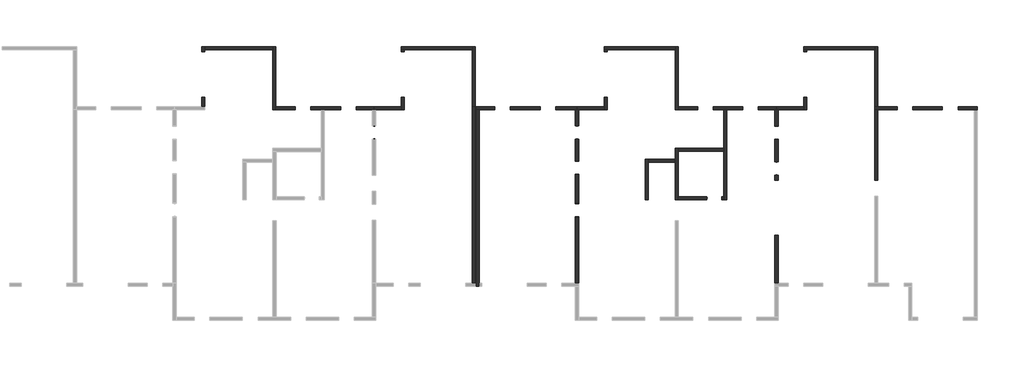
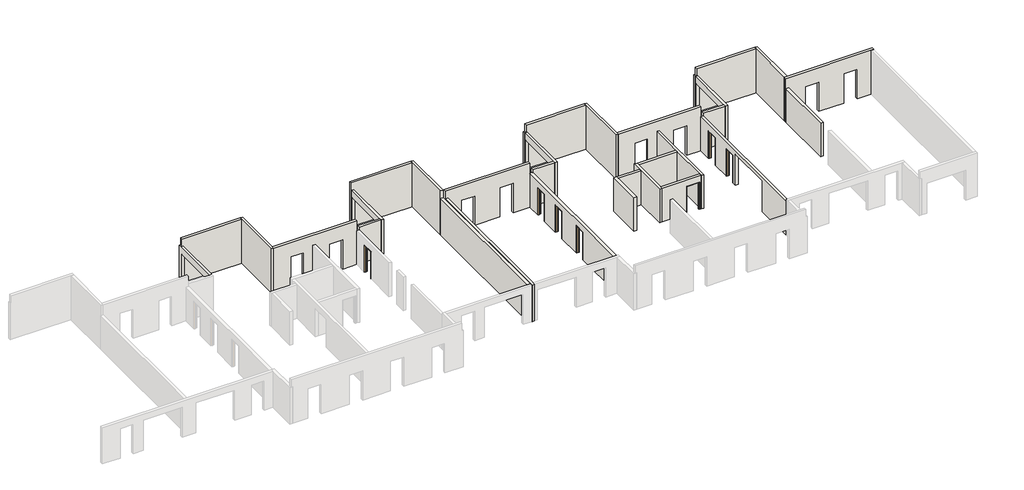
# One storey, part 3 of 3: 30 walls, 7 doors.
"""IFC4 building model written with IfcOpenShell, lengths in millimetres."""

import ifcopenshell
import ifcopenshell.guid

model = None  # the IFC model being written
_history = None  # IfcOwnerHistory: only IFC2X3 demands one
_inside = {}  # id of a spatial element -> (the spatial element, [elements in it])
_under = {}  # id of a project, library or spatial element -> (it, [spatial elements below it])
_declared = {}  # id of a project -> (the project, [libraries it declares])
_typed = {}  # id of a type object -> (the type object, [elements of that type])
_made_of = {}  # id of a material, layer set ... -> (it, [elements and type objects made of it])


def new_model(schema):
    """Start an empty IFC model of exactly this schema.

    Asked for "IFC4X3", IfcOpenShell would pick the latest addendum, in which some entities
    have other attributes; the version numbers below select the first issue.
    IFC2X3 requires an IfcOwnerHistory on every rooted entity: one is made here for all.
    """
    global model, _history
    if schema == "IFC4X3":
        model = ifcopenshell.file(schema_version=(4, 3, 0, 0))
    else:
        model = ifcopenshell.file(schema=schema)
    _inside.clear()
    _under.clear()
    _declared.clear()
    _typed.clear()
    _made_of.clear()
    _history = None
    if model.schema == "IFC2X3":
        org = make("IfcOrganization", Name="unknown")
        user = make(
            "IfcPersonAndOrganization",
            ThePerson=make("IfcPerson", FamilyName="unknown"),
            TheOrganization=org,
        )
        app = make(
            "IfcApplication",
            ApplicationDeveloper=org,
            Version="unknown",
            ApplicationFullName="unknown",
            ApplicationIdentifier="unknown",
        )
        _history = make(
            "IfcOwnerHistory",
            OwningUser=user,
            OwningApplication=app,
            ChangeAction="ADDED",
            CreationDate=0,
        )
    return model


def make(cls, **values):
    """One entity of the class cls with the attributes given. An attribute that is None is left unset."""
    return model.create_entity(
        cls, **{name: value for name, value in values.items() if value is not None}
    )


def rooted(cls, **values):
    """An entity with a GlobalId (a new one), such as an element, a storey or a relation."""
    return make(cls, GlobalId=ifcopenshell.guid.new(), OwnerHistory=_history, **values)


def si_unit(unit_type, name, prefix=None):
    """IfcSIUnit, for example si_unit("LENGTHUNIT", "METRE", prefix="MILLI")."""
    return make("IfcSIUnit", UnitType=unit_type, Prefix=prefix, Name=name)


def assignment(units):
    """IfcUnitAssignment: the units of a project."""
    return None if units is None else make("IfcUnitAssignment", Units=units)


def point(xyz):
    """IfcCartesianPoint."""
    return None if xyz is None else make("IfcCartesianPoint", Coordinates=xyz)


def direction(xyz):
    """IfcDirection."""
    return None if xyz is None else make("IfcDirection", DirectionRatios=xyz)


def frame(location, z_axis=None, x_axis=None):
    """IfcAxis2Placement3D, a coordinate frame: its origin and axes. An axis left out is left unset."""
    return make(
        "IfcAxis2Placement3D",
        Location=point(location),
        Axis=direction(z_axis),
        RefDirection=direction(x_axis),
    )


def origin():
    """The frame at (0, 0, 0) with its axes left unset."""
    return frame((0.0, 0.0, 0.0))


def place(relative_to, where):
    """IfcLocalPlacement: puts the frame where relative to a parent placement (None: the world)."""
    return make(
        "IfcLocalPlacement", PlacementRelTo=relative_to, RelativePlacement=where
    )


def context(
    kind, dimensions, precision=None, world=None, true_north=None, identifier=None
):
    """IfcGeometricRepresentationContext, for example the 3D "Model" context."""
    return make(
        "IfcGeometricRepresentationContext",
        ContextIdentifier=identifier,
        ContextType=kind,
        CoordinateSpaceDimension=dimensions,
        Precision=precision,
        WorldCoordinateSystem=world,
        TrueNorth=true_north,
    )


def project(units=None, contexts=None):
    """IfcProject with its units and contexts."""
    return rooted(
        "IfcProject",
        Name="project",
        RepresentationContexts=contexts,
        UnitsInContext=assignment(units),
    )


def spatial(cls, under=None, at=None, **own):
    """A site, building, storey or space (cls), placed at a placement, below another one or the project."""
    s = rooted(cls, ObjectPlacement=at, **own)
    if under is not None:
        _under.setdefault(under.id(), (under, []))[1].append(s)
    return s


def polyline(points):
    """IfcPolyline through the points."""
    return make("IfcPolyline", Points=[point(p) for p in points])


def outline(outer, holes=None, kind="AREA"):
    """IfcArbitraryClosedProfileDef: a profile drawn as a closed curve; with holes, ...WithVoids."""
    if holes is None:
        return make("IfcArbitraryClosedProfileDef", ProfileType=kind, OuterCurve=outer)
    return make(
        "IfcArbitraryProfileDefWithVoids",
        ProfileType=kind,
        OuterCurve=outer,
        InnerCurves=holes,
    )


def extrude(swept, where, along, depth):
    """IfcExtrudedAreaSolid: the profile swept, set in the frame where, extruded along a direction by depth."""
    return make(
        "IfcExtrudedAreaSolid",
        SweptArea=swept,
        Position=where,
        ExtrudedDirection=direction(along),
        Depth=depth,
    )


def faces_of(points, faces, orient=None, outer=None):
    """IfcFace entities. A face is a list of loops; a loop is a list of indices into points, from 0.

    orient and outer hold one flag for each loop. By default every Orientation is true, the
    first loop of a face is its IfcFaceOuterBound and the others are IfcFaceBound.
    """
    made = []
    for i, loops in enumerate(faces):
        bounds = []
        for j, loop in enumerate(loops):
            is_outer = j == 0 if outer is None else outer[i][j]
            bounds.append(
                make(
                    "IfcFaceOuterBound" if is_outer else "IfcFaceBound",
                    Bound=make("IfcPolyLoop", Polygon=[points[k] for k in loop]),
                    Orientation=True if orient is None else orient[i][j],
                )
            )
        made.append(make("IfcFace", Bounds=bounds))
    return made


def faceted_brep(points, faces, orient=None, outer=None, voids=None):
    """IfcFacetedBrep: a solid bounded by flat faces; with voids (closed shells), ...WithVoids."""
    shared = [point(p) for p in points]
    hull = make("IfcClosedShell", CfsFaces=faces_of(shared, faces, orient, outer))
    if voids is None:
        return make("IfcFacetedBrep", Outer=hull)
    return make(
        "IfcFacetedBrepWithVoids",
        Outer=hull,
        Voids=[
            make(cls, CfsFaces=faces_of(shared, fs, o, b)) for cls, fs, o, b in voids
        ],
    )


def shape(context_of_items, identifier, shape_type, items):
    """IfcShapeRepresentation: the items that make up one representation, for example the "Body"."""
    return make(
        "IfcShapeRepresentation",
        ContextOfItems=context_of_items,
        RepresentationIdentifier=identifier,
        RepresentationType=shape_type,
        Items=items,
    )


def source(mapping_origin, context_of_items, identifier, shape_type, items):
    """IfcRepresentationMap: a shape defined once, which mapped items show again and again."""
    return make(
        "IfcRepresentationMap",
        MappingOrigin=mapping_origin,
        MappedRepresentation=shape(context_of_items, identifier, shape_type, items),
    )


def transform(
    local_origin,
    x_axis=None,
    y_axis=None,
    z_axis=None,
    scale=None,
    scale2=None,
    scale3=None,
    uniform=True,
):
    """IfcCartesianTransformationOperator3D, or its non-uniform kind. x_axis, y_axis, z_axis: its Axis1, 2, 3."""
    if uniform:
        return make(
            "IfcCartesianTransformationOperator3D",
            Axis1=direction(x_axis),
            Axis2=direction(y_axis),
            LocalOrigin=point(local_origin),
            Scale=scale,
            Axis3=direction(z_axis),
        )
    return make(
        "IfcCartesianTransformationOperator3DnonUniform",
        Axis1=direction(x_axis),
        Axis2=direction(y_axis),
        LocalOrigin=point(local_origin),
        Scale=scale,
        Axis3=direction(z_axis),
        Scale2=scale2,
        Scale3=scale3,
    )


def mapped(mapping_source, mapping_target):
    """IfcMappedItem: shows the shape of a source again, moved by a transform."""
    return make(
        "IfcMappedItem", MappingSource=mapping_source, MappingTarget=mapping_target
    )


def made_of(thing, what):
    """Note that an element or type object is made of a material, layer set ...; save() writes the relation."""
    if what is not None:
        _made_of.setdefault(what.id(), (what, []))[1].append(thing)
    return thing


def element(
    cls,
    number,
    at=None,
    inside=None,
    cuts=None,
    type_object=None,
    material=None,
    context=None,
    identifier="Body",
    shape_type=None,
    held_by="IfcProductDefinitionShape",
    body=None,
    shapes=None,
    **own,
):
    """One element of the class cls, such as IfcWall. Its Tag is "e" and its number.

    at: its placement. inside: the storey or other place that contains it. cuts: it is an
    opening in that element (IfcRelVoidsElement). A single representation is given by context,
    identifier, shape_type and body (its items); several are given by shapes. held_by: the class
    of the entity that holds the representations. save() writes the other relations.
    """
    e = rooted(cls, Tag="e%d" % number, ObjectPlacement=at, **own)
    if body is not None:
        shapes = [shape(context, identifier, shape_type, body)]
    if shapes is not None:
        e.Representation = make(held_by, Representations=shapes)
    if inside is not None:
        _inside.setdefault(inside.id(), (inside, []))[1].append(e)
    if cuts is not None:
        rooted(
            "IfcRelVoidsElement", RelatingBuildingElement=cuts, RelatedOpeningElement=e
        )
    if type_object is not None:
        _typed.setdefault(type_object.id(), (type_object, []))[1].append(e)
    return made_of(e, material)


def aggregate(whole, parts):
    """IfcRelAggregates: a whole, such as a stair, and the parts it consists of."""
    return rooted("IfcRelAggregates", RelatingObject=whole, RelatedObjects=parts)


def save(model, path):
    """Write the relations noted so far, then the file.

    IfcRelAggregates (storeys below a building ...), IfcRelContainedInSpatialStructure (elements
    in a storey), IfcRelDefinesByType, IfcRelAssociatesMaterial and IfcRelDeclares: one each for
    every whole, place, type object, material and project.
    """
    for whole, parts in _under.values():
        aggregate(whole, parts)
    for where, things in _inside.values():
        rooted(
            "IfcRelContainedInSpatialStructure",
            RelatedElements=things,
            RelatingStructure=where,
        )
    for kind, things in _typed.values():
        rooted("IfcRelDefinesByType", RelatedObjects=things, RelatingType=kind)
    for what, things in _made_of.values():
        rooted("IfcRelAssociatesMaterial", RelatedObjects=things, RelatingMaterial=what)
    for by, libraries in _declared.values():
        rooted("IfcRelDeclares", RelatingContext=by, RelatedDefinitions=libraries)
    model.write(path)


def door_48b161e2(model_context):
    return source(origin(), model_context, "Body", "Brep", [
        faceted_brep([(391.8113433, 100.0, 0.0), (406.8113433, 100.0, 0.0), (406.8113433, -100.0, 0.0), (391.8113433, -100.0, 0.0), (391.8113433, -26.2, 0.0), (376.8113433, -26.2, 0.0), (376.8113433, 26.2, 0.0), (391.8113433, 26.2, 0.0), (391.8113433, 100.0, 2020.0), (-408.1886567, 100.0, 2020.0), (-408.1886567, 100.0, 0.0), (-423.1886567, 100.0, 0.0), (-423.1886567, 100.0, 2035.0), (406.8113433, 100.0, 2035.0), (406.8113433, -100.0, 2035.0), (-423.1886567, -100.0, 2035.0), (-423.1886567, -100.0, 0.0), (-408.1886567, -100.0, 0.0), (-408.1886567, -100.0, 2020.0), (391.8113433, -100.0, 2020.0), (391.8113433, -26.2, 2020.0), (-408.1886567, -26.2, 2020.0), (-408.1886567, -26.2, 0.0), (-393.1886567, -26.2, 0.0), (-393.1886567, -26.2, 2005.0), (376.8113433, -26.2, 2005.0), (376.8113433, 26.2, 2005.0), (-393.1886567, 26.2, 2005.0), (-393.1886567, 26.2, 0.0), (-408.1886567, 26.2, 0.0), (-408.1886567, 26.2, 2020.0), (391.8113433, 26.2, 2020.0)], [[[0, 1, 2, 3, 4, 5, 6, 7]], [[1, 0, 8, 9, 10, 11, 12, 13]], [[2, 1, 13, 14]], [[3, 2, 14, 15, 16, 17, 18, 19]], [[4, 3, 19, 20]], [[5, 4, 20, 21, 22, 23, 24, 25]], [[6, 5, 25, 26]], [[7, 6, 26, 27, 28, 29, 30, 31]], [[0, 7, 31, 8]], [[9, 30, 29, 10]], [[10, 29, 28, 23, 22, 17, 16, 11]], [[15, 12, 11, 16]], [[21, 18, 17, 22]], [[27, 24, 23, 28]], [[14, 13, 12, 15]], [[26, 25, 24, 27]], [[20, 19, 18, 21]], [[8, 31, 30, 9]]]),
    ])


def door_a0d7bfd5(model_context):
    return source(origin(), model_context, "Body", "Brep", [
        faceted_brep([(441.8113433, 90.0, 0.0), (456.8113433, 90.0, 0.0), (456.8113433, -90.0, 0.0), (441.8113433, -90.0, 0.0), (441.8113433, -26.2, 0.0), (426.8113433, -26.2, 0.0), (426.8113433, 26.2, 0.0), (441.8113433, 26.2, 0.0), (441.8113433, 90.0, 2020.0), (-458.1886567, 90.0, 2020.0), (-458.1886567, 90.0, 0.0), (-473.1886567, 90.0, 0.0), (-473.1886567, 90.0, 2035.0), (456.8113433, 90.0, 2035.0), (456.8113433, -90.0, 2035.0), (-473.1886567, -90.0, 2035.0), (-473.1886567, -90.0, 0.0), (-458.1886567, -90.0, 0.0), (-458.1886567, -90.0, 2020.0), (441.8113433, -90.0, 2020.0), (441.8113433, -26.2, 2020.0), (-458.1886567, -26.2, 2020.0), (-458.1886567, -26.2, 0.0), (-443.1886567, -26.2, 0.0), (-443.1886567, -26.2, 2005.0), (426.8113433, -26.2, 2005.0), (426.8113433, 26.2, 2005.0), (-443.1886567, 26.2, 2005.0), (-443.1886567, 26.2, 0.0), (-458.1886567, 26.2, 0.0), (-458.1886567, 26.2, 2020.0), (441.8113433, 26.2, 2020.0)], [[[0, 1, 2, 3, 4, 5, 6, 7]], [[1, 0, 8, 9, 10, 11, 12, 13]], [[2, 1, 13, 14]], [[3, 2, 14, 15, 16, 17, 18, 19]], [[4, 3, 19, 20]], [[5, 4, 20, 21, 22, 23, 24, 25]], [[6, 5, 25, 26]], [[7, 6, 26, 27, 28, 29, 30, 31]], [[0, 7, 31, 8]], [[9, 30, 29, 10]], [[10, 29, 28, 23, 22, 17, 16, 11]], [[15, 12, 11, 16]], [[21, 18, 17, 22]], [[27, 24, 23, 28]], [[14, 13, 12, 15]], [[26, 25, 24, 27]], [[20, 19, 18, 21]], [[8, 31, 30, 9]]]),
    ])


model = new_model("IFC4")

# Units and contexts
model_context = context("Model", 3, world=origin())
ifc_project = project(units=[si_unit("LENGTHUNIT", "METRE", prefix="MILLI")], contexts=[model_context])

# Site, building, storey
site = spatial("IfcSite", under=ifc_project)
building = spatial("IfcBuilding", under=site)
storey = spatial("IfcBuildingStorey", under=building, Name="Niv +2", Elevation=5400.0)

# Doors
placement = place(None, origin())
door_shape = door_48b161e2(model_context)
element("IfcDoor", 1, ObjectType="FREYS HUISSERIE A BANCHER : FREYS 83*2.035", at=placement, inside=storey, context=model_context, shape_type="MappedRepresentation", body=[
    mapped(door_shape, transform((23664.5564317, 4876.1247664, 5400.0), x_axis=(0.0, -1.0, 0.0), y_axis=(1.0, 0.0, 0.0), z_axis=(0.0, 0.0, 1.0))),
])
element("IfcDoor", 2, ObjectType="FREYS HUISSERIE A BANCHER : FREYS 83*2.035", at=placement, inside=storey, context=model_context, shape_type="MappedRepresentation", body=[
    mapped(door_shape, transform((23664.5564317, 2756.1563277, 5400.0), x_axis=(0.0, -1.0, 0.0), y_axis=(1.0, 0.0, 0.0), z_axis=(0.0, 0.0, 1.0))),
])
element("IfcDoor", 3, ObjectType="FREYS HUISSERIE A BANCHER : FREYS 83*2.035", at=placement, inside=storey, context=model_context, shape_type="MappedRepresentation", body=[
    mapped(door_shape, transform((23664.5564317, 222.4877305, 5400.0), x_axis=(0.0, 1.0, 0.0), y_axis=(-1.0, 0.0, 0.0), z_axis=(0.0, 0.0, 1.0))),
])
element("IfcDoor", 4, ObjectType="FREYS HUISSERIE A BANCHER : FREYS 83*2.035", at=placement, inside=storey, context=model_context, shape_type="MappedRepresentation", body=[
    mapped(door_shape, transform((35664.5312786, 4863.6271318, 5400.0), x_axis=(0.0, -1.0, 0.0), y_axis=(1.0, 0.0, 0.0), z_axis=(0.0, 0.0, 1.0))),
])
element("IfcDoor", 5, ObjectType="FREYS HUISSERIE A BANCHER : FREYS 83*2.035", at=placement, inside=storey, context=model_context, shape_type="MappedRepresentation", body=[
    mapped(door_shape, transform((35664.5312786, 2710.1542618, 5400.0), x_axis=(0.0, -1.0, 0.0), y_axis=(1.0, 0.0, 0.0), z_axis=(0.0, 0.0, 1.0))),
])
element("IfcDoor", 6, ObjectType="FREYS HUISSERIE A BANCHER : FREYS 83*2.035", at=placement, inside=storey, context=model_context, shape_type="MappedRepresentation", body=[
    mapped(door_shape, transform((11464.5281637, 4876.2899672, 5400.0), x_axis=(0.0, -1.0, 0.0), y_axis=(1.0, 0.0, 0.0), z_axis=(0.0, 0.0, 1.0))),
])
door_2_shape = door_a0d7bfd5(model_context)
element("IfcDoor", 7, ObjectType="FREYS HUISSERIE A BANCHER : FREYS 93*2.035", at=placement, inside=storey, context=model_context, shape_type="MappedRepresentation", body=[
    mapped(door_2_shape, transform((31922.0230132, 946.3174361, 5400.0), x_axis=(-1.0, 0.0, 0.0), y_axis=(0.0, -1.0, 0.0), z_axis=(0.0, 0.0, 1.0))),
])

# Walls
element("IfcWall", 8, ObjectType="FREYS voile BA C25/30 ep=18 EXT", at=placement, inside=storey, context=model_context, shape_type="Brep", body=[
    faceted_brep([(5374.5566776, 10056.3428653, 5400.0), (5374.5566776, 9876.3428653, 5400.0), (5374.5566776, 6246.3428699, 5400.0), (5374.5566776, 6246.3428699, 8650.0), (5374.5566776, 9876.3428653, 8650.0), (5374.5566776, 10056.3428653, 8650.0), (5554.5566776, 10056.3428653, 5400.0), (5554.5566776, 10056.3428653, 8650.0), (5554.5566776, 6426.3428699, 8650.0), (5554.5566776, 6246.3428699, 8650.0), (5554.5566776, 6246.3428699, 5400.0), (5554.5566776, 6426.3428699, 5400.0)], [[[0, 1, 2, 3, 4, 5]], [[6, 7, 8, 9, 10, 11]], [[2, 1, 0, 6, 11, 10]], [[5, 4, 3, 9, 8, 7]], [[3, 2, 10, 9]], [[0, 5, 7, 6]]]),
])
element("IfcWall", 9, ObjectType="FREYS voile BA C25/30 ep=18 EXT", at=placement, inside=storey, context=model_context, shape_type="Brep", body=[
    faceted_brep([(17374.5566776, 10056.3428699, 5400.0), (17374.5566776, 9876.3428699, 5400.0), (17374.5566776, 6426.3428699, 5400.0), (17374.5566776, 6426.3428699, 8100.0), (17374.5566776, 6426.3428699, 8650.0), (17374.5566776, 9876.3428699, 8650.0), (17374.5566776, 10056.3428699, 8650.0), (17554.5566776, 10056.3428699, 5400.0), (17554.5566776, 10056.3428699, 8650.0), (17554.5566776, 6426.3428699, 8650.0), (17554.5566776, 6426.3428699, 8100.0), (17554.5566776, 6426.3428699, 5400.0)], [[[0, 1, 2, 3, 4, 5, 6]], [[7, 8, 9, 10, 11]], [[2, 1, 0, 7, 11]], [[4, 3, 2, 11, 10, 9]], [[6, 5, 4, 9, 8]], [[0, 6, 8, 7]]]),
])
element("IfcWall", 10, ObjectType="FREYS voile BA C25/30 ep=18 INT", at=placement, inside=storey, context=model_context, shape_type="Brep", body=[
    faceted_brep([(17594.5566776, 6246.3428699, 5400.0), (17594.5566776, -4353.682553, 5400.0), (17594.5566776, -4353.682553, 8100.0), (17594.5566776, 6246.3428699, 8100.0), (17774.5566776, 6246.3428699, 5400.0), (17774.5566776, 6246.3428699, 8100.0), (17774.5566776, -4173.682553, 8100.0), (17774.5566776, -4353.682553, 8100.0), (17774.5566776, -4353.682553, 5400.0), (17774.5566776, -4173.682553, 5400.0)], [[[0, 1, 2, 3]], [[4, 5, 6, 7, 8, 9]], [[1, 0, 4, 9, 8]], [[3, 2, 7, 6, 5]], [[2, 1, 8, 7]], [[0, 3, 5, 4]]]),
])
element("IfcWall", 11, ObjectType="FREYS voile BA C25/30 ep=20 INT", at=placement, inside=storey, context=model_context, shape_type="Brep", body=[
    faceted_brep([(23564.5564317, 2349.3449844, 5400.0), (23564.5564317, 629.2990738, 5400.0), (23564.5564317, 629.2990738, 7435.0), (23564.5564317, -200.7009262, 7435.0), (23564.5564317, -200.7009262, 5400.0), (23564.5564317, -4163.6571301, 5400.0), (23564.5564317, -4163.6571301, 7900.0), (23564.5564317, 6246.3428699, 7900.0), (23564.5564317, 6246.3428699, 5400.0), (23564.5564317, 5299.3134231, 5400.0), (23564.5564317, 5299.3134231, 7435.0), (23564.5564317, 4469.3134231, 7435.0), (23564.5564317, 4469.3134231, 5400.0), (23564.5564317, 3179.3449844, 5400.0), (23564.5564317, 3179.3449844, 7435.0), (23564.5564317, 2349.3449844, 7435.0), (23764.5564317, 629.2990738, 7435.0), (23764.5564317, 629.2990738, 5400.0), (23764.5564317, 2349.3449844, 5400.0), (23764.5564317, 2349.3449844, 7435.0), (23764.5564317, 3179.3449844, 7435.0), (23764.5564317, 3179.3449844, 5400.0), (23764.5564317, 4469.3134231, 5400.0), (23764.5564317, 4469.3134231, 7435.0), (23764.5564317, 5299.3134231, 7435.0), (23764.5564317, 5299.3134231, 5400.0), (23764.5564317, 6246.3428699, 5400.0), (23764.5564317, 6246.3428699, 7900.0), (23764.5564317, -4163.6571301, 7900.0), (23764.5564317, -4163.6571301, 5400.0), (23764.5564317, -200.7009262, 5400.0), (23764.5564317, -200.7009262, 7435.0), (23654.1337347, 6246.3428699, 5400.0)], [[[0, 1, 2, 3, 4, 5, 6, 7, 8, 9, 10, 11, 12, 13, 14, 15]], [[16, 17, 18, 19, 20, 21, 22, 23, 24, 25, 26, 27, 28, 29, 30, 31]], [[9, 8, 32, 26, 25]], [[13, 12, 22, 21]], [[30, 29, 5, 4]], [[18, 17, 1, 0]], [[6, 5, 29, 28]], [[7, 6, 28, 27]], [[25, 24, 10, 9]], [[23, 22, 12, 11]], [[24, 23, 11, 10]], [[21, 20, 14, 13]], [[19, 18, 0, 15]], [[20, 19, 15, 14]], [[4, 3, 31, 30]], [[2, 1, 17, 16]], [[3, 2, 16, 31]], [[8, 7, 27, 26, 32]]]),
])
element("IfcWall", 12, ObjectType="FREYS voile BA C25/30 ep=20 INT", at=placement, inside=storey, context=model_context, shape_type="Brep", body=[
    faceted_brep([(27964.5312756, 856.3174386, 5400.0), (27964.5312756, 3086.3428384, 5400.0), (27964.5312756, 3286.3428384, 5400.0), (27964.5312756, 3286.3428384, 7900.0), (27964.5312756, 3086.3428384, 7900.0), (27964.5312756, 856.3174386, 7900.0), (27764.5312756, 856.3174386, 5400.0), (27764.5312756, 856.3174386, 7900.0), (27764.5312756, 3286.3428384, 7900.0), (27764.5312756, 3286.3428384, 5400.0)], [[[0, 1, 2, 3, 4, 5]], [[6, 7, 8, 9]], [[2, 1, 0, 6, 9]], [[5, 4, 3, 8, 7]], [[0, 5, 7, 6]], [[3, 2, 9, 8]]]),
])
element("IfcWall", 13, ObjectType="FREYS voile BA C25/30 ep=20 INT", at=placement, inside=storey, context=model_context, shape_type="SweptSolid", body=[
    extrude(outline(polyline([(29564.5058756, 3086.3428384), (27964.5312756, 3086.3428384), (27964.5312756, 3286.3428384), (29564.5058756, 3286.3428384), (29564.5058756, 3086.3428384)])), frame((0.0, 0.0, 5400.0), z_axis=(0.0, 0.0, 1.0), x_axis=(1.0, 0.0, 0.0)), (0.0, 0.0, 1.0), 2500.0),
])
element("IfcWall", 14, ObjectType="FREYS voile BA C25/30 ep=20 INT", at=placement, inside=storey, context=model_context, shape_type="Brep", body=[
    faceted_brep([(29764.5058756, 856.3174361, 5400.0), (29764.5058756, 1036.3174361, 5400.0), (29764.5058756, 3756.3174386, 5400.0), (29764.5058756, 3936.3174386, 5400.0), (29764.5058756, 3936.3174386, 7900.0), (29764.5058756, 3756.3174386, 7900.0), (29764.5058756, 1036.3174361, 7900.0), (29764.5058756, 856.3174361, 7900.0), (29564.5058756, 856.3174361, 5400.0), (29564.5058756, 856.3174361, 7900.0), (29564.5058756, 3086.3428384, 7900.0), (29564.5058756, 3286.3428384, 7900.0), (29564.5058756, 3936.3174386, 7900.0), (29564.5058756, 3936.3174386, 5400.0), (29564.5058756, 3286.3428384, 5400.0), (29564.5058756, 3086.3428384, 5400.0)], [[[0, 1, 2, 3, 4, 5, 6, 7]], [[8, 9, 10, 11, 12, 13, 14, 15]], [[3, 2, 1, 0, 8, 15, 14, 13]], [[7, 6, 5, 4, 12, 11, 10, 9]], [[0, 7, 9, 8]], [[4, 3, 13, 12]]]),
])
element("IfcWall", 15, ObjectType="FREYS voile BA C25/30 ep=18 EXT", at=placement, inside=storey, context=model_context, shape_type="Brep", body=[
    faceted_brep([(29584.5566776, 10054.7647075, 5400.0), (29584.5566776, 9874.7647075, 5400.0), (29584.5566776, 6246.3428699, 5400.0), (29584.5566776, 6246.3428699, 8650.0), (29584.5566776, 9874.7647075, 8650.0), (29584.5566776, 10054.7647075, 8650.0), (29764.5566776, 10054.7647075, 5400.0), (29764.5566776, 10054.7647075, 8650.0), (29764.5566776, 6426.3428699, 8650.0), (29764.5566776, 6246.3428699, 8650.0), (29764.5566776, 6246.3428699, 5400.0), (29764.5566776, 6426.3428699, 5400.0)], [[[0, 1, 2, 3, 4, 5]], [[6, 7, 8, 9, 10, 11]], [[2, 1, 0, 6, 11, 10]], [[5, 4, 3, 9, 8, 7]], [[3, 2, 10, 9]], [[0, 5, 7, 6]]]),
])
element("IfcWall", 16, ObjectType="FREYS voile BA C25/30 ep=20 EXT", at=placement, inside=storey, context=model_context, shape_type="Brep", body=[
    faceted_brep([(41564.5566776, 10056.3428653, 5400.0), (41564.5566776, 9876.3428653, 5400.0), (41564.5566776, 6426.3428699, 5400.0), (41564.5566776, 6426.3428699, 8650.0), (41564.5566776, 9876.3428653, 8650.0), (41564.5566776, 10056.3428653, 8650.0), (41764.5566776, 10056.3428653, 5400.0), (41764.5566776, 10056.3428653, 8650.0), (41764.5566776, 6426.3428699, 8650.0), (41764.5566776, 6426.3428699, 5400.0)], [[[0, 1, 2, 3, 4, 5]], [[6, 7, 8, 9]], [[2, 1, 0, 6, 9]], [[5, 4, 3, 8, 7]], [[0, 5, 7, 6]], [[3, 2, 9, 8]]]),
])
element("IfcWall", 17, ObjectType="FREYS voile BA C25/30 ep=18 EXT", at=placement, inside=storey, context=model_context, shape_type="Brep", body=[
    faceted_brep([(41564.5566776, 6426.3428699, 8650.0), (41764.5566776, 6426.3428699, 8650.0), (47754.5312794, 6426.3428699, 8650.0), (47754.5312794, 6426.3428699, 5400.0), (46584.5574723, 6426.3428699, 5400.0), (46584.5574723, 6426.3428699, 7580.0), (45644.5574723, 6426.3428699, 7580.0), (45644.5574723, 6426.3428699, 5400.0), (43864.558267, 6426.3428699, 5400.0), (43864.558267, 6426.3428699, 7580.0), (42924.558267, 6426.3428699, 7580.0), (42924.558267, 6426.3428699, 5400.0), (41764.5566776, 6426.3428699, 5400.0), (41564.5566776, 6426.3428699, 5400.0), (47754.5312794, 6246.3428699, 8650.0), (41564.5566776, 6246.3428699, 8650.0), (41564.5566776, 6246.3428699, 5400.0), (42924.558267, 6246.3428699, 5400.0), (42924.558267, 6246.3428699, 7580.0), (43864.558267, 6246.3428699, 7580.0), (43864.558267, 6246.3428699, 5400.0), (45644.5574723, 6246.3428699, 5400.0), (45644.5574723, 6246.3428699, 7580.0), (46584.5574723, 6246.3428699, 7580.0), (46584.5574723, 6246.3428699, 5400.0), (47754.5312794, 6246.3428699, 5400.0)], [[[0, 1, 2, 3, 4, 5, 6, 7, 8, 9, 10, 11, 12, 13]], [[14, 15, 16, 17, 18, 19, 20, 21, 22, 23, 24, 25]], [[3, 25, 24, 4]], [[20, 8, 7, 21]], [[13, 12, 11, 17, 16]], [[2, 1, 0, 15, 14]], [[3, 2, 14, 25]], [[19, 9, 8, 20]], [[10, 18, 17, 11]], [[9, 19, 18, 10]], [[6, 22, 21, 7]], [[23, 5, 4, 24]], [[22, 6, 5, 23]], [[0, 13, 16, 15]]]),
])
element("IfcWall", 18, ObjectType="FREYS voile BA C25/30 ep=18 EXT", at=placement, inside=storey, context=model_context, shape_type="Brep", body=[
    faceted_brep([(41564.5566776, 10056.3428653, 5400.0), (37294.5566776, 10056.3428653, 5400.0), (37294.5566776, 10056.3428653, 7890.0), (37294.5566776, 10056.3428653, 8100.0), (37384.5566776, 10056.3428653, 8100.0), (37384.5566776, 10056.3428653, 8650.0), (41564.5566776, 10056.3428653, 8650.0), (41564.5566776, 9876.3428653, 5400.0), (41564.5566776, 9876.3428653, 8650.0), (37384.5566776, 9876.3428653, 8650.0), (37384.5566776, 9876.3428653, 8100.0), (37294.5566776, 9876.3428653, 8100.0), (37294.5566776, 9876.3428653, 7890.0), (37294.5566776, 9876.3428653, 5400.0), (37474.5566776, 9876.3428653, 5400.0)], [[[0, 1, 2, 3, 4, 5, 6]], [[7, 8, 9, 10, 11, 12, 13, 14]], [[1, 0, 7, 14, 13]], [[6, 5, 9, 8]], [[0, 6, 8, 7]], [[5, 4, 10, 9]], [[10, 4, 3, 11]], [[1, 13, 12, 11, 3, 2]]]),
])
element("IfcWall", 19, ObjectType="FREYS voile BA C25/30 ep=18 EXT", at=placement, inside=storey, context=model_context, shape_type="Brep", body=[
    faceted_brep([(37294.5566776, 7006.3428653, 7630.0), (37294.5566776, 7006.3428653, 5400.0), (37294.5566776, 6426.3428699, 5400.0), (37294.5566776, 6246.3428699, 5400.0), (37294.5566776, 6246.3428699, 8100.0), (37294.5566776, 6426.3428699, 8100.0), (37294.5566776, 9876.3428653, 8100.0), (37294.5566776, 9876.3428653, 5400.0), (37294.5566776, 9746.3428653, 5400.0), (37294.5566776, 9746.3428653, 7630.0), (37474.5566776, 6246.3428699, 5400.0), (37474.5566776, 7006.3428653, 5400.0), (37474.5566776, 7006.3428653, 7630.0), (37474.5566776, 9746.3428653, 7630.0), (37474.5566776, 9746.3428653, 5400.0), (37474.5566776, 9876.3428653, 5400.0), (37474.5566776, 9876.3428653, 8100.0), (37474.5566776, 6246.3428699, 8100.0), (37384.5566776, 9876.3428653, 8100.0)], [[[0, 1, 2, 3, 4, 5, 6, 7, 8, 9]], [[10, 11, 12, 13, 14, 15, 16, 17]], [[8, 7, 15, 14]], [[3, 2, 1, 11, 10]], [[6, 5, 4, 17, 16, 18]], [[4, 3, 10, 17]], [[14, 13, 9, 8]], [[12, 11, 1, 0]], [[13, 12, 0, 9]], [[6, 18, 16, 15, 7]]]),
])
element("IfcWall", 20, ObjectType="FREYS voile BA C25/30 ep=18 EXT", at=placement, inside=storey, context=model_context, shape_type="Brep", body=[
    faceted_brep([(37294.5566776, 6426.3428699, 5400.0), (35654.1337347, 6426.3428699, 5400.0), (35654.1337347, 6426.3428699, 7890.0), (35744.1337347, 6426.3428699, 7890.0), (35744.1337347, 6426.3428699, 8100.0), (37294.5566776, 6426.3428699, 8100.0), (37294.5566776, 6246.3428699, 5400.0), (37294.5566776, 6246.3428699, 8100.0), (35744.1337347, 6246.3428699, 8100.0), (35744.1337347, 6246.3428699, 7890.0), (35654.1337347, 6246.3428699, 7890.0), (35654.1337347, 6246.3428699, 5400.0), (35764.5312786, 6246.3428699, 5400.0)], [[[0, 1, 2, 3, 4, 5]], [[6, 7, 8, 9, 10, 11, 12]], [[1, 0, 6, 12, 11]], [[5, 4, 8, 7]], [[0, 5, 7, 6]], [[2, 1, 11, 10]], [[9, 3, 2, 10]], [[3, 9, 8, 4]]]),
])
element("IfcWall", 21, ObjectType="FREYS voile BA C25/30 ep=18 INT", at=placement, inside=storey, context=model_context, shape_type="Brep", body=[
    faceted_brep([(32484.5576436, 6246.3428699, 5400.0), (32484.5576436, 3936.3174386, 5400.0), (32484.5576436, 3756.3174386, 5400.0), (32484.5576436, 1036.3174361, 5400.0), (32484.5576436, 856.3174361, 5400.0), (32484.5576436, 856.3174361, 7900.0), (32484.5576436, 1036.3174361, 7900.0), (32484.5576436, 3756.3174386, 7900.0), (32484.5576436, 3936.3174386, 7900.0), (32484.5576436, 6246.3428699, 7900.0), (32664.5576436, 6246.3428699, 5400.0), (32664.5576436, 6246.3428699, 7900.0), (32664.5576436, 856.3174361, 7900.0), (32664.5576436, 856.3174361, 5400.0)], [[[0, 1, 2, 3, 4, 5, 6, 7, 8, 9]], [[10, 11, 12, 13]], [[4, 3, 2, 1, 0, 10, 13]], [[9, 8, 7, 6, 5, 12, 11]], [[0, 9, 11, 10]], [[5, 4, 13, 12]]]),
])
element("IfcWall", 22, ObjectType="FREYS voile BA C25/30 ep=18 INT", at=placement, inside=storey, context=model_context, shape_type="SweptSolid", body=[
    extrude(outline(polyline([(5400.0, 29764.5058756), (5400.0, 31465.2116699), (7435.0, 31465.2116699), (7435.0, 32395.2116699), (5400.0, 32395.2116699), (5400.0, 32484.5576436), (7900.0, 32484.5576436), (7900.0, 29764.5058756), (5400.0, 29764.5058756)])), frame((0.0, 856.3174361, 0.0), z_axis=(0.0, 1.0, 0.0), x_axis=(0.0, 0.0, 1.0)), (0.0, 0.0, 1.0), 180.0),
])
element("IfcWall", 23, ObjectType="FREYS voile BA C25/30 ep=18 INT", at=placement, inside=storey, context=model_context, shape_type="SweptSolid", body=[
    extrude(outline(polyline([(32484.5576436, 3756.3174386), (29764.5058756, 3756.3174386), (29764.5058756, 3936.3174386), (32484.5576436, 3936.3174386), (32484.5576436, 3756.3174386)])), frame((0.0, 0.0, 5400.0), z_axis=(0.0, 0.0, 1.0), x_axis=(1.0, 0.0, 0.0)), (0.0, 0.0, 1.0), 2500.0),
])
element("IfcWall", 24, ObjectType="FREYS voile BA C25/30 ep=18 EXT", at=placement, inside=storey, context=model_context, shape_type="Brep", body=[
    faceted_brep([(29584.5566776, 10054.7647075, 5400.0), (25294.556849, 10054.7647075, 5400.0), (25294.556849, 10054.7647075, 8100.0), (25384.556849, 10054.7647075, 8100.0), (25384.556849, 10054.7647075, 8650.0), (29584.5566776, 10054.7647075, 8650.0), (29584.5566776, 9874.7647075, 5400.0), (29584.5566776, 9874.7647075, 8650.0), (25384.556849, 9874.7647075, 8650.0), (25384.556849, 9874.7647075, 8100.0), (25294.556849, 9874.7647075, 8100.0), (25294.556849, 9874.7647075, 5400.0), (25474.556849, 9874.7647075, 5400.0), (25384.556849, 9876.3428653, 8650.0), (25384.556849, 9876.3428653, 8100.0), (25294.556849, 9876.3428653, 8100.0)], [[[0, 1, 2, 3, 4, 5]], [[6, 7, 8, 9, 10, 11, 12]], [[1, 0, 6, 12, 11]], [[5, 4, 13, 8, 7]], [[0, 5, 7, 6]], [[4, 3, 14, 9, 8, 13]], [[9, 14, 3, 2, 15, 10]], [[1, 11, 10, 15, 2]]]),
])
element("IfcWall", 25, ObjectType="FREYS voile BA C25/30 ep=18 EXT", at=placement, inside=storey, context=model_context, shape_type="Brep", body=[
    faceted_brep([(25294.556849, 6246.3428699, 8100.0), (25294.556849, 6426.3428699, 8100.0), (25294.556849, 9874.7647075, 8100.0), (25294.556849, 9874.7647075, 5400.0), (25294.556849, 9746.3428651, 5400.0), (25294.556849, 9746.3428651, 7630.0), (25294.556849, 7006.3428651, 7630.0), (25294.556849, 7006.3428651, 5400.0), (25294.556849, 6426.3428699, 5400.0), (25294.556849, 6246.3428699, 5400.0), (25474.556849, 9874.7647075, 8100.0), (25474.556849, 6246.3428699, 8100.0), (25474.556849, 6246.3428699, 5400.0), (25474.556849, 7006.3428651, 5400.0), (25474.556849, 7006.3428651, 7630.0), (25474.556849, 9746.3428651, 7630.0), (25474.556849, 9746.3428651, 5400.0), (25474.556849, 9874.7647075, 5400.0), (25384.556849, 9874.7647075, 8100.0)], [[[0, 1, 2, 3, 4, 5, 6, 7, 8, 9]], [[10, 11, 12, 13, 14, 15, 16, 17]], [[3, 17, 16, 4]], [[12, 9, 8, 7, 13]], [[2, 1, 0, 11, 10, 18]], [[0, 9, 12, 11]], [[6, 14, 13, 7]], [[14, 6, 5, 15]], [[15, 5, 4, 16]], [[2, 18, 10, 17, 3]]]),
])
element("IfcWall", 26, ObjectType="FREYS voile BA C25/30 ep=18 EXT", at=placement, inside=storey, context=model_context, shape_type="Brep", body=[
    faceted_brep([(25294.556849, 6426.3428699, 5400.0), (23654.1337347, 6426.3428699, 5400.0), (23654.1337347, 6426.3428699, 7890.0), (23744.1337347, 6426.3428699, 7890.0), (23744.1337347, 6426.3428699, 8100.0), (25294.556849, 6426.3428699, 8100.0), (25294.556849, 6246.3428699, 5400.0), (25294.556849, 6246.3428699, 8100.0), (23744.1337347, 6246.3428699, 8100.0), (23744.1337347, 6246.3428699, 7890.0), (23654.1337347, 6246.3428699, 7890.0), (23654.1337347, 6246.3428699, 5400.0), (23764.5564317, 6246.3428699, 5400.0)], [[[0, 1, 2, 3, 4, 5]], [[6, 7, 8, 9, 10, 11, 12]], [[1, 0, 6, 12, 11]], [[5, 4, 8, 7]], [[0, 5, 7, 6]], [[2, 1, 11, 10]], [[9, 3, 2, 10]], [[3, 9, 8, 4]]]),
])
element("IfcWall", 27, ObjectType="FREYS voile BA C25/30 ep=18 EXT", at=placement, inside=storey, context=model_context, shape_type="Brep", body=[
    faceted_brep([(17374.5566776, 10056.3428699, 5400.0), (13095.4308018, 10056.3428699, 5400.0), (13095.4308018, 10056.3428699, 8650.0), (17374.5566776, 10056.3428699, 8650.0), (17374.5566776, 9876.3428699, 5400.0), (17374.5566776, 9876.3428699, 8650.0), (13095.4308018, 9876.3428699, 8650.0), (13095.4308018, 9876.3428699, 8100.0), (13095.4308018, 9876.3428699, 5400.0), (13275.4308018, 9876.3428699, 5400.0)], [[[0, 1, 2, 3]], [[4, 5, 6, 7, 8, 9]], [[1, 0, 4, 9, 8]], [[3, 2, 6, 5]], [[0, 3, 5, 4]], [[2, 1, 8, 7, 6]]]),
])
element("IfcWall", 28, ObjectType="FREYS voile BA C25/30 ep=18 EXT", at=placement, inside=storey, context=model_context, shape_type="Brep", body=[
    faceted_brep([(13095.4308018, 7006.3428653, 7630.0), (13095.4308018, 7006.3428653, 5400.0), (13095.4308018, 6426.3428699, 5400.0), (13095.4308018, 6246.3428699, 5400.0), (13095.4308018, 6246.3428699, 8100.0), (13095.4308018, 6426.3428699, 8100.0), (13095.4308018, 9876.3428699, 8100.0), (13095.4308018, 9876.3428699, 5400.0), (13095.4308018, 9746.3428653, 5400.0), (13095.4308018, 9746.3428653, 7630.0), (13275.4308018, 6246.3428699, 5400.0), (13275.4308018, 7006.3428653, 5400.0), (13275.4308018, 7006.3428653, 7630.0), (13275.4308018, 9746.3428653, 7630.0), (13275.4308018, 9746.3428653, 5400.0), (13275.4308018, 9876.3428699, 5400.0), (13275.4308018, 9876.3428699, 8100.0), (13275.4308018, 6246.3428699, 8100.0)], [[[0, 1, 2, 3, 4, 5, 6, 7, 8, 9]], [[10, 11, 12, 13, 14, 15, 16, 17]], [[8, 7, 15, 14]], [[3, 2, 1, 11, 10]], [[6, 5, 4, 17, 16]], [[7, 6, 16, 15]], [[4, 3, 10, 17]], [[14, 13, 9, 8]], [[12, 11, 1, 0]], [[13, 12, 0, 9]]]),
])
element("IfcWall", 29, ObjectType="FREYS voile BA C25/30 ep=18 EXT", at=placement, inside=storey, context=model_context, shape_type="Brep", body=[
    faceted_brep([(13095.4308018, 6426.3428699, 5400.0), (11454.1337347, 6426.3428699, 5400.0), (11454.1337347, 6426.3428699, 7890.0), (11544.1337347, 6426.3428699, 7890.0), (11544.1337347, 6426.3428699, 8100.0), (13095.4308018, 6426.3428699, 8100.0), (13095.4308018, 6246.3428699, 5400.0), (13095.4308018, 6246.3428699, 8100.0), (11544.1337347, 6246.3428699, 8100.0), (11544.1337347, 6246.3428699, 7890.0), (11454.1337347, 6246.3428699, 7890.0), (11454.1337347, 6246.3428699, 5400.0), (11564.5281637, 6246.3428699, 5400.0)], [[[0, 1, 2, 3, 4, 5]], [[6, 7, 8, 9, 10, 11, 12]], [[1, 0, 6, 12, 11]], [[5, 4, 8, 7]], [[0, 5, 7, 6]], [[2, 1, 11, 10]], [[9, 3, 2, 10]], [[3, 9, 8, 4]]]),
])
element("IfcWall", 30, ObjectType="FREYS voile BA C25/30 ep=18 EXT", at=placement, inside=storey, context=model_context, shape_type="Brep", body=[
    faceted_brep([(1274.556849, 10056.3428653, 8100.0), (1274.556849, 9876.3428653, 8100.0), (1274.556849, 6426.3428699, 8100.0), (1274.556849, 6426.3428699, 5400.0), (1274.556849, 7006.3428651, 5400.0), (1274.556849, 7006.3428651, 7630.0), (1274.556849, 9746.3428651, 7630.0), (1274.556849, 9746.3428651, 5400.0), (1274.556849, 9876.3428653, 5400.0), (1274.556849, 10056.3428653, 5400.0), (1094.556849, 6426.3428699, 8100.0), (1094.556849, 9876.3428653, 8100.0), (1094.556849, 10056.3428653, 8100.0), (1094.556849, 10056.3428653, 7890.0), (1094.556849, 10056.3428653, 5400.0), (1094.556849, 9746.3428651, 5400.0), (1094.556849, 9746.3428651, 7630.0), (1094.556849, 7006.3428651, 7630.0), (1094.556849, 7006.3428651, 5400.0), (1094.556849, 6426.3428699, 5400.0), (1184.556849, 10056.3428653, 8100.0)], [[[0, 1, 2, 3, 4, 5, 6, 7, 8, 9]], [[10, 11, 12, 13, 14, 15, 16, 17, 18, 19]], [[3, 19, 18, 4]], [[14, 9, 8, 7, 15]], [[2, 1, 0, 20, 12, 11, 10]], [[3, 2, 10, 19]], [[6, 16, 15, 7]], [[16, 6, 5, 17]], [[17, 5, 4, 18]], [[9, 14, 13, 12, 20, 0]]]),
])
element("IfcWall", 31, ObjectType="FREYS voile BA C25/30 ep=18 EXT", at=placement, inside=storey, context=model_context, shape_type="SweptSolid", body=[
    extrude(outline(polyline([(8100.0, 1274.556849), (5400.0, 1274.556849), (5400.0, 5374.5566776), (8650.0, 5374.5566776), (8650.0, 1184.556849), (8100.0, 1184.556849), (8100.0, 1274.556849)])), frame((0.0, 9876.3428653, 0.0), z_axis=(0.0, 1.0, 0.0), x_axis=(0.0, 0.0, 1.0)), (0.0, 0.0, 1.0), 180.0),
])
element("IfcWall", 32, ObjectType="FREYS voile BA C25/30 ep=20 INT", at=placement, inside=storey, context=model_context, shape_type="Brep", body=[
    faceted_brep([(35564.5312786, -1283.6571207, 7700.0), (35564.5312786, -1283.6571207, 5400.0), (35564.5312786, -4173.6837353, 5400.0), (35564.5312786, -4173.6837353, 7900.0), (35564.5312786, 6246.3428699, 7900.0), (35564.5312786, 6246.3428699, 5400.0), (35564.5312786, 5286.8157885, 5400.0), (35564.5312786, 5286.8157885, 7435.0), (35564.5312786, 4456.8157885, 7435.0), (35564.5312786, 4456.8157885, 5400.0), (35564.5312786, 3133.3429185, 5400.0), (35564.5312786, 3133.3429185, 7435.0), (35564.5312786, 2303.3429185, 7435.0), (35564.5312786, 2303.3429185, 5400.0), (35564.5312786, 2006.3428793, 5400.0), (35564.5312786, 2006.3428793, 7700.0), (35764.5312786, -4173.6837353, 5400.0), (35764.5312786, -1283.6571207, 5400.0), (35764.5312786, -1283.6571207, 7700.0), (35764.5312786, 2006.3428793, 7700.0), (35764.5312786, 2006.3428793, 5400.0), (35764.5312786, 2303.3429185, 5400.0), (35764.5312786, 2303.3429185, 7435.0), (35764.5312786, 3133.3429185, 7435.0), (35764.5312786, 3133.3429185, 5400.0), (35764.5312786, 4456.8157885, 5400.0), (35764.5312786, 4456.8157885, 7435.0), (35764.5312786, 5286.8157885, 7435.0), (35764.5312786, 5286.8157885, 5400.0), (35764.5312786, 6246.3428699, 5400.0), (35764.5312786, 6246.3428699, 7900.0), (35764.5312786, -4173.6837353, 7900.0), (35654.1337347, 6246.3428699, 5400.0)], [[[0, 1, 2, 3, 4, 5, 6, 7, 8, 9, 10, 11, 12, 13, 14, 15]], [[16, 17, 18, 19, 20, 21, 22, 23, 24, 25, 26, 27, 28, 29, 30, 31]], [[6, 5, 32, 29, 28]], [[10, 9, 25, 24]], [[14, 13, 21, 20]], [[2, 1, 17, 16]], [[3, 2, 16, 31]], [[4, 3, 31, 30]], [[28, 27, 7, 6]], [[26, 25, 9, 8]], [[27, 26, 8, 7]], [[24, 23, 11, 10]], [[22, 21, 13, 12]], [[23, 22, 12, 11]], [[20, 19, 15, 14]], [[18, 17, 1, 0]], [[19, 18, 0, 15]], [[5, 4, 30, 29, 32]]]),
])
element("IfcWall", 33, ObjectType="FREYS voile BA C25/30 ep=18 INT", at=placement, inside=storey, context=model_context, shape_type="SweptSolid", body=[
    extrude(outline(polyline([(17374.5566776, -4173.6825564), (17374.5566776, 6426.3428699), (17554.5566776, 6426.3428699), (17554.5566776, -4173.6825564), (17374.5566776, -4173.6825564)])), frame((0.0, 0.0, 5400.0), z_axis=(0.0, 0.0, 1.0), x_axis=(1.0, 0.0, 0.0)), (0.0, 0.0, 1.0), 2700.0),
])
element("IfcWall", 34, ObjectType="FREYS voile BA C25/30 ep=20 INT", at=placement, inside=storey, context=model_context, shape_type="SweptSolid", body=[
    extrude(outline(polyline([(41564.5566776, 2016.3428653), (41564.5566776, 6246.3428699), (41764.5566776, 6246.3428699), (41764.5566776, 2016.3428653), (41564.5566776, 2016.3428653)])), frame((0.0, 0.0, 5400.0), z_axis=(0.0, 0.0, 1.0), x_axis=(1.0, 0.0, 0.0)), (0.0, 0.0, 1.0), 2500.0),
])
element("IfcWall", 35, ObjectType="FREYS voile BA C25/30 ep=18 EXT", at=placement, inside=storey, context=model_context, shape_type="Brep", body=[
    faceted_brep([(5554.5566776, 6426.3428699, 8650.0), (11364.1337347, 6426.3428699, 8650.0), (11364.1337347, 6426.3428699, 7890.0), (11454.1337347, 6426.3428699, 7890.0), (11454.1337347, 6426.3428699, 5400.0), (10384.5574723, 6426.3428699, 5400.0), (10384.5574723, 6426.3428699, 7580.0), (9444.5574723, 6426.3428699, 7580.0), (9444.5574723, 6426.3428699, 5400.0), (7664.558267, 6426.3428699, 5400.0), (7664.558267, 6426.3428699, 7580.0), (6724.558267, 6426.3428699, 7580.0), (6724.558267, 6426.3428699, 5400.0), (5554.5566776, 6426.3428699, 5400.0), (11364.1337347, 6246.3428699, 8650.0), (5554.5566776, 6246.3428699, 8650.0), (5554.5566776, 6246.3428699, 5400.0), (6724.558267, 6246.3428699, 5400.0), (6724.558267, 6246.3428699, 7580.0), (7664.558267, 6246.3428699, 7580.0), (7664.558267, 6246.3428699, 5400.0), (8282.6226054, 6246.3428699, 5400.0), (8462.6226054, 6246.3428699, 5400.0), (9444.5574723, 6246.3428699, 5400.0), (9444.5574723, 6246.3428699, 7580.0), (10384.5574723, 6246.3428699, 7580.0), (10384.5574723, 6246.3428699, 5400.0), (11364.5281637, 6246.3428699, 5400.0), (11454.1337347, 6246.3428699, 5400.0), (11454.1337347, 6246.3428699, 7890.0), (11364.1337347, 6246.3428699, 7890.0)], [[[0, 1, 2, 3, 4, 5, 6, 7, 8, 9, 10, 11, 12, 13]], [[14, 15, 16, 17, 18, 19, 20, 21, 22, 23, 24, 25, 26, 27, 28, 29, 30]], [[16, 13, 12, 17]], [[20, 9, 8, 23, 22, 21]], [[4, 28, 27, 26, 5]], [[1, 0, 15, 14]], [[0, 13, 16, 15]], [[19, 10, 9, 20]], [[11, 18, 17, 12]], [[10, 19, 18, 11]], [[25, 6, 5, 26]], [[7, 24, 23, 8]], [[6, 25, 24, 7]], [[28, 4, 3, 29]], [[30, 29, 3, 2]], [[30, 2, 1, 14]]]),
])
element("IfcWall", 36, ObjectType="FREYS voile BA C25/30 ep=18 EXT", at=placement, inside=storey, context=model_context, shape_type="Brep", body=[
    faceted_brep([(17594.5566776, 6426.3428699, 8650.0), (23564.1337347, 6426.3428699, 8650.0), (23564.1337347, 6426.3428699, 7890.0), (23654.1337347, 6426.3428699, 7890.0), (23654.1337347, 6426.3428699, 5400.0), (22384.5574723, 6426.3428699, 5400.0), (22384.5574723, 6426.3428699, 7580.0), (21444.5574723, 6426.3428699, 7580.0), (21444.5574723, 6426.3428699, 5400.0), (19664.558267, 6426.3428699, 5400.0), (19664.558267, 6426.3428699, 7580.0), (18724.558267, 6426.3428699, 7580.0), (18724.558267, 6426.3428699, 5400.0), (17594.5566776, 6426.3428699, 5400.0), (23564.1337347, 6246.3428699, 8650.0), (17594.5566776, 6246.3428699, 8650.0), (17594.5566776, 6246.3428699, 8100.0), (17594.5566776, 6246.3428699, 5400.0), (17774.5566776, 6246.3428699, 5400.0), (18724.558267, 6246.3428699, 5400.0), (18724.558267, 6246.3428699, 7580.0), (19664.558267, 6246.3428699, 7580.0), (19664.558267, 6246.3428699, 5400.0), (21444.5574723, 6246.3428699, 5400.0), (21444.5574723, 6246.3428699, 7580.0), (22384.5574723, 6246.3428699, 7580.0), (22384.5574723, 6246.3428699, 5400.0), (23564.5564317, 6246.3428699, 5400.0), (23654.1337347, 6246.3428699, 5400.0), (23654.1337347, 6246.3428699, 7890.0), (23564.1337347, 6246.3428699, 7890.0)], [[[0, 1, 2, 3, 4, 5, 6, 7, 8, 9, 10, 11, 12, 13]], [[14, 15, 16, 17, 18, 19, 20, 21, 22, 23, 24, 25, 26, 27, 28, 29, 30]], [[17, 13, 12, 19, 18]], [[22, 9, 8, 23]], [[4, 28, 27, 26, 5]], [[1, 0, 15, 14]], [[0, 13, 17, 16, 15]], [[11, 20, 19, 12]], [[21, 10, 9, 22]], [[20, 11, 10, 21]], [[7, 24, 23, 8]], [[25, 6, 5, 26]], [[24, 7, 6, 25]], [[28, 4, 3, 29]], [[30, 29, 3, 2]], [[30, 2, 1, 14]]]),
])
element("IfcWall", 37, ObjectType="FREYS voile BA C25/30 ep=18 EXT", at=placement, inside=storey, context=model_context, shape_type="Brep", body=[
    faceted_brep([(29764.5566776, 6426.3428699, 8650.0), (35564.1337347, 6426.3428699, 8650.0), (35564.1337347, 6426.3428699, 7890.0), (35654.1337347, 6426.3428699, 7890.0), (35654.1337347, 6426.3428699, 5400.0), (34584.5574723, 6426.3428699, 5400.0), (34584.5574723, 6426.3428699, 7580.0), (33644.5574723, 6426.3428699, 7580.0), (33644.5574723, 6426.3428699, 5400.0), (31864.558267, 6426.3428699, 5400.0), (31864.558267, 6426.3428699, 7580.0), (30924.558267, 6426.3428699, 7580.0), (30924.558267, 6426.3428699, 5400.0), (29764.5566776, 6426.3428699, 5400.0), (35564.1337347, 6246.3428699, 8650.0), (29764.5566776, 6246.3428699, 8650.0), (29764.5566776, 6246.3428699, 5400.0), (30924.558267, 6246.3428699, 5400.0), (30924.558267, 6246.3428699, 7580.0), (31864.558267, 6246.3428699, 7580.0), (31864.558267, 6246.3428699, 5400.0), (32484.5576436, 6246.3428699, 5400.0), (32664.5576436, 6246.3428699, 5400.0), (33644.5574723, 6246.3428699, 5400.0), (33644.5574723, 6246.3428699, 7580.0), (34584.5574723, 6246.3428699, 7580.0), (34584.5574723, 6246.3428699, 5400.0), (35564.5312786, 6246.3428699, 5400.0), (35654.1337347, 6246.3428699, 5400.0), (35654.1337347, 6246.3428699, 7890.0), (35564.1337347, 6246.3428699, 7890.0)], [[[0, 1, 2, 3, 4, 5, 6, 7, 8, 9, 10, 11, 12, 13]], [[14, 15, 16, 17, 18, 19, 20, 21, 22, 23, 24, 25, 26, 27, 28, 29, 30]], [[16, 13, 12, 17]], [[20, 9, 8, 23, 22, 21]], [[4, 28, 27, 26, 5]], [[1, 0, 15, 14]], [[0, 13, 16, 15]], [[11, 18, 17, 12]], [[19, 10, 9, 20]], [[18, 11, 10, 19]], [[7, 24, 23, 8]], [[25, 6, 5, 26]], [[24, 7, 6, 25]], [[28, 4, 3, 29]], [[30, 29, 3, 2]], [[30, 2, 1, 14]]]),
])

save(model, "model.ifc")
